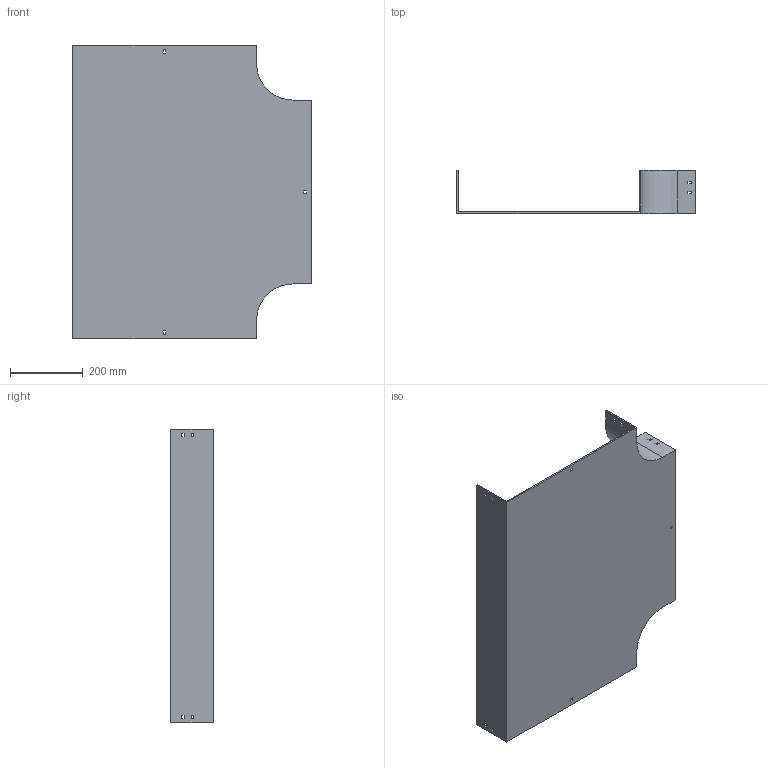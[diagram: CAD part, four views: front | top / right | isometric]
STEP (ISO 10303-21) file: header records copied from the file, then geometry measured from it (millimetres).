
FILE_DESCRIPTION (( 'STEP AP214' ), '1' );
FILE_NAME ('15B1J500.step', '2025-02-21T09:53:52', ( '' ), ( '' ), 'SwSTEP 2.0', 'SolidWorks 2023', '' );
FILE_SCHEMA (( 'AUTOMOTIVE_DESIGN' ));
Length unit declared in the file: millimetre
Products named in the file (1): 15B1J500
Bounding box: 654 x 117.5 x 804 mm (x, y, z)
Volume: 2222463 mm3; surface area: 1284031.9 mm2
Topology: 1 solids, 1 shells, 82 faces, 240 edges, 160 vertices
Faces by surface type: plane 78, cylinder 4
Entity records: 2755 total; most frequent: CARTESIAN_POINT 483, ORIENTED_EDGE 480, DIRECTION 414, EDGE_CURVE 240, VECTOR 232, LINE 232, VERTEX_POINT 160, EDGE_LOOP 112
